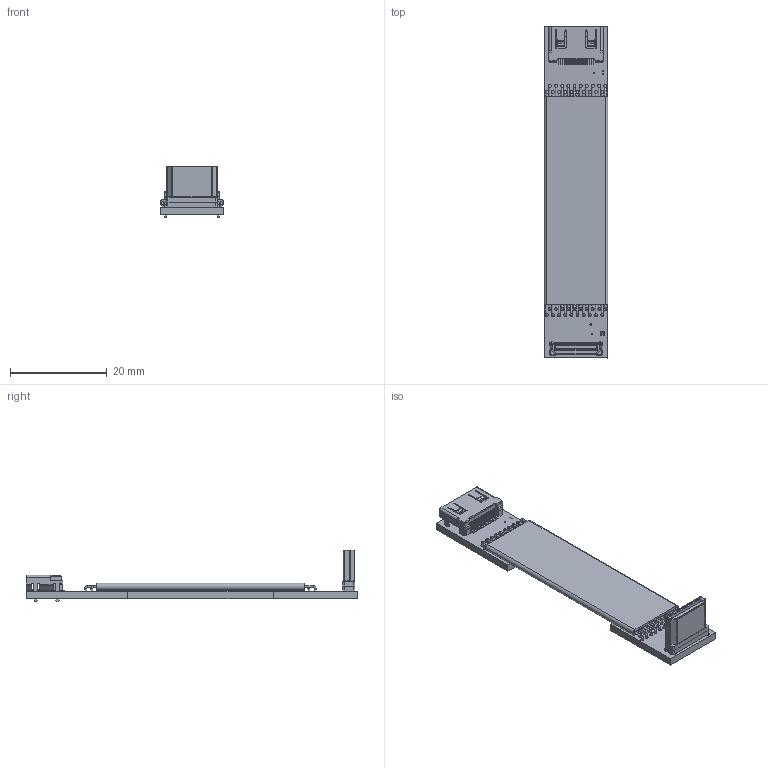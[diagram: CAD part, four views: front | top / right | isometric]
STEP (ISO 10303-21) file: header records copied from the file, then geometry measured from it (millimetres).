
FILE_DESCRIPTION(('Open CASCADE Model'),'2;1');
FILE_NAME('Open CASCADE Shape Model','2022-06-09T21:13:36',('Author'),( 'Open CASCADE'),'Open CASCADE STEP processor 6.8','Open CASCADE 6.8' ,'Unknown');
FILE_SCHEMA(('AUTOMOTIVE_DESIGN { 1 0 10303 214 1 1 1 1 }'));
Length unit declared in the file: millimetre
Products named in the file (50): PCB; Board; Open CASCADE STEP translator 6.8 14.1.1; _1; HC4; Open CASCADE STEP translator 6.8 14.3; miniHDMI-p_RGB10275833; HDMI_type_C1; Free-Models; cable20-43-s
Assembly tree (50 placements, depth 3):
  PCB
    Board
      Open CASCADE STEP translator 6.8 14.1.1
    _1
      HC4
    Open CASCADE STEP translator 6.8 14.3
      miniHDMI-p_RGB10275833  x2
      HDMI_type_C1
    Free-Models
      cable20-43-s
      cable20-43-s
      cable20-43-s
      cable20-43-s
      cable20-43-s
      cable20-43-s
      cable20-43-s
      cable20-43-s
      cable20-43-s
      cable20-43-s
      cable20-43-s
      cable20-43-s
      cable20-43-s
      cable20-43-s
      cable20-43-s
      cable20-43-s
      cable20-43-s
      cable20-43-s
      cable20-43-s
      cable20-43-s
      cable20-43-s
      cable20-43-s
      cable20-43-s
      cable20-43-s
      cable20-43-s
      cable20-43-s
      cable20-43-s
      cable20-43-s
      cable20-43-s
      cable20-43-s
      cable20-43-s
      cable20-43-s
      cable20-43-s
      cable20-43-s
      cable20-43-s
      cable20-43-s
      cable20-43-s
      cable20-43-s
      cable20-43-s
      cable20-43-s
      cable20-43-s
Bounding box: 13.2 x 68.49 x 10.6 mm (x, y, z)
Volume: 1754.2 mm3; surface area: 5143.1 mm2
Topology: 67 solids, 67 shells, 1277 faces, 3286 edges, 2122 vertices
Faces by surface type: plane 780, cylinder 423, torus 46, bspline 24, sphere 4
Full cylindrical faces by diameter (mm): 0.254 x5, 0.304 x6, 0.4 x109, 0.6 x40, 1 x2, 1.1 x2, 1.4 x2
Entity records: 45785 total; most frequent: CARTESIAN_POINT 7952, ORIENTED_EDGE 6516, DIRECTION 6468, EDGE_CURVE 3258, LINE 2220, VECTOR 2220, AXIS2_PLACEMENT_3D 2124, VERTEX_POINT 2106
